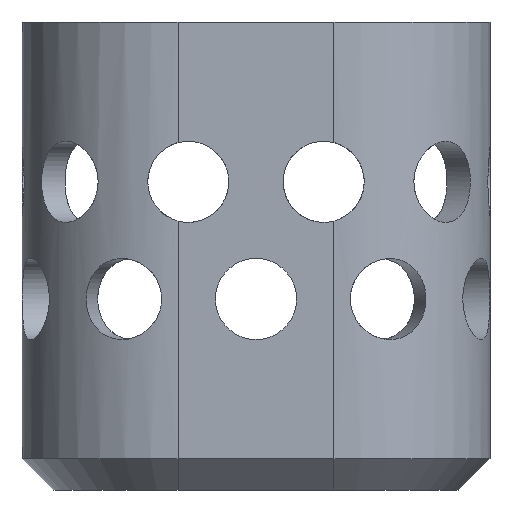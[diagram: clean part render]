
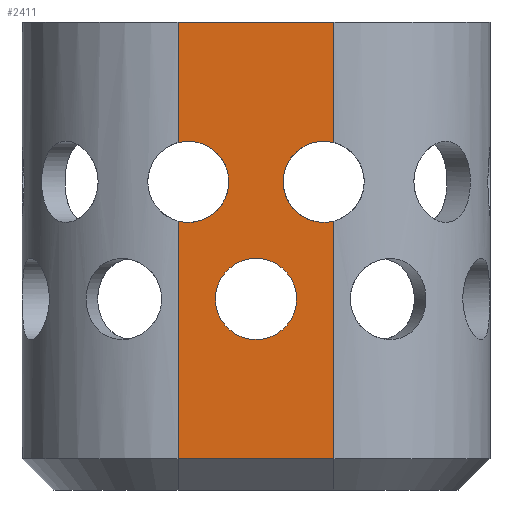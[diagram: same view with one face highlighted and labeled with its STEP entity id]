
A CAD part, front view. The second image highlights one B-rep face of the part: STEP entity #2411.
In plain terms, the highlighted planar face has unit normal (0, -1, 0).
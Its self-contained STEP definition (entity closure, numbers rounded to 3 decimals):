
#108=FACE_BOUND('',#694,.T.);
#379=CIRCLE('',#2604,2.6);
#380=CIRCLE('',#2606,2.6);
#381=CIRCLE('',#2607,2.6);
#391=CIRCLE('',#2645,2.6);
#501=FACE_OUTER_BOUND('',#693,.T.);
#693=EDGE_LOOP('',(#2263,#2264,#2265,#2266,#2267,#2268,#2269,#2270,#2271));
#694=EDGE_LOOP('',(#2272));
#737=LINE('',#3728,#877);
#745=LINE('',#3775,#885);
#746=LINE('',#3795,#886);
#771=LINE('',#4225,#911);
#837=LINE('',#5135,#977);
#838=LINE('',#5136,#978);
#877=VECTOR('',#2802,10.);
#885=VECTOR('',#2828,10.);
#886=VECTOR('',#2829,10.);
#911=VECTOR('',#2952,10.);
#977=VECTOR('',#3234,10.);
#978=VECTOR('',#3235,10.);
#1059=VERTEX_POINT('',#3720);
#1061=VERTEX_POINT('',#3726);
#1070=VERTEX_POINT('',#3772);
#1071=VERTEX_POINT('',#3774);
#1072=VERTEX_POINT('',#3776);
#1134=VERTEX_POINT('',#4224);
#1197=VERTEX_POINT('',#4858);
#1199=VERTEX_POINT('',#4871);
#1200=VERTEX_POINT('',#4884);
#1222=VERTEX_POINT('',#5125);
#1323=EDGE_CURVE('',#1061,#1059,#737,.T.);
#1338=EDGE_CURVE('',#1071,#1070,#745,.T.);
#1340=EDGE_CURVE('',#1061,#1072,#746,.T.);
#1419=EDGE_CURVE('',#1134,#1070,#771,.T.);
#1519=EDGE_CURVE('',#1199,#1197,#379,.T.);
#1520=EDGE_CURVE('',#1200,#1071,#380,.T.);
#1522=EDGE_CURVE('',#1072,#1200,#381,.T.);
#1571=EDGE_CURVE('',#1222,#1222,#391,.T.);
#1577=EDGE_CURVE('',#1197,#1134,#837,.T.);
#1578=EDGE_CURVE('',#1059,#1199,#838,.T.);
#2263=ORIENTED_EDGE('',*,*,#1323,.F.);
#2264=ORIENTED_EDGE('',*,*,#1340,.T.);
#2265=ORIENTED_EDGE('',*,*,#1522,.T.);
#2266=ORIENTED_EDGE('',*,*,#1520,.T.);
#2267=ORIENTED_EDGE('',*,*,#1338,.T.);
#2268=ORIENTED_EDGE('',*,*,#1419,.F.);
#2269=ORIENTED_EDGE('',*,*,#1577,.F.);
#2270=ORIENTED_EDGE('',*,*,#1519,.F.);
#2271=ORIENTED_EDGE('',*,*,#1578,.F.);
#2272=ORIENTED_EDGE('',*,*,#1571,.T.);
#2313=PLANE('',#2648);
#2411=ADVANCED_FACE('',(#501,#108),#2313,.T.);
#2604=AXIS2_PLACEMENT_3D('',#4882,#3111,#3112);
#2606=AXIS2_PLACEMENT_3D('',#4885,#3115,#3116);
#2607=AXIS2_PLACEMENT_3D('',#4887,#3118,#3119);
#2645=AXIS2_PLACEMENT_3D('',#5126,#3221,#3222);
#2648=AXIS2_PLACEMENT_3D('',#5134,#3232,#3233);
#2802=DIRECTION('',(-1.,0.,0.));
#2828=DIRECTION('',(0.,0.,1.));
#2829=DIRECTION('',(0.,0.,1.));
#2952=DIRECTION('',(1.,0.,0.));
#3111=DIRECTION('center_axis',(0.,-1.,0.));
#3112=DIRECTION('ref_axis',(1.,0.,0.));
#3115=DIRECTION('center_axis',(0.,1.,0.));
#3116=DIRECTION('ref_axis',(1.,0.,0.));
#3118=DIRECTION('center_axis',(0.,1.,0.));
#3119=DIRECTION('ref_axis',(1.,0.,0.));
#3221=DIRECTION('center_axis',(0.,1.,0.));
#3222=DIRECTION('ref_axis',(1.,0.,0.));
#3232=DIRECTION('center_axis',(0.,-1.,0.));
#3233=DIRECTION('ref_axis',(1.,0.,0.));
#3234=DIRECTION('',(0.,0.,1.));
#3235=DIRECTION('',(0.,0.,1.));
#3720=CARTESIAN_POINT('',(-5.,-50.,2.));
#3726=CARTESIAN_POINT('',(5.,-50.,2.));
#3728=CARTESIAN_POINT('',(-2.5,-50.,2.));
#3772=CARTESIAN_POINT('',(5.,-50.,30.));
#3774=CARTESIAN_POINT('',(5.,-50.,22.269));
#3775=CARTESIAN_POINT('',(5.,-50.,2.));
#3776=CARTESIAN_POINT('',(5.,-50.,17.241));
#3795=CARTESIAN_POINT('',(5.,-50.,0.));
#4224=CARTESIAN_POINT('',(-5.,-50.,30.));
#4225=CARTESIAN_POINT('',(-5.,-50.,30.));
#4858=CARTESIAN_POINT('',(-5.,-50.,22.269));
#4871=CARTESIAN_POINT('',(-5.,-50.,17.241));
#4882=CARTESIAN_POINT('Origin',(-4.336,-50.,19.755));
#4884=CARTESIAN_POINT('',(1.736,-50.,19.755));
#4885=CARTESIAN_POINT('Origin',(4.336,-50.,19.755));
#4887=CARTESIAN_POINT('Origin',(4.336,-50.,19.755));
#5125=CARTESIAN_POINT('',(-2.6,-50.,12.245));
#5126=CARTESIAN_POINT('Origin',(0.,-50.,12.245));
#5134=CARTESIAN_POINT('Origin',(-5.,-50.,0.));
#5135=CARTESIAN_POINT('',(-5.,-50.,2.));
#5136=CARTESIAN_POINT('',(-5.,-50.,0.));
